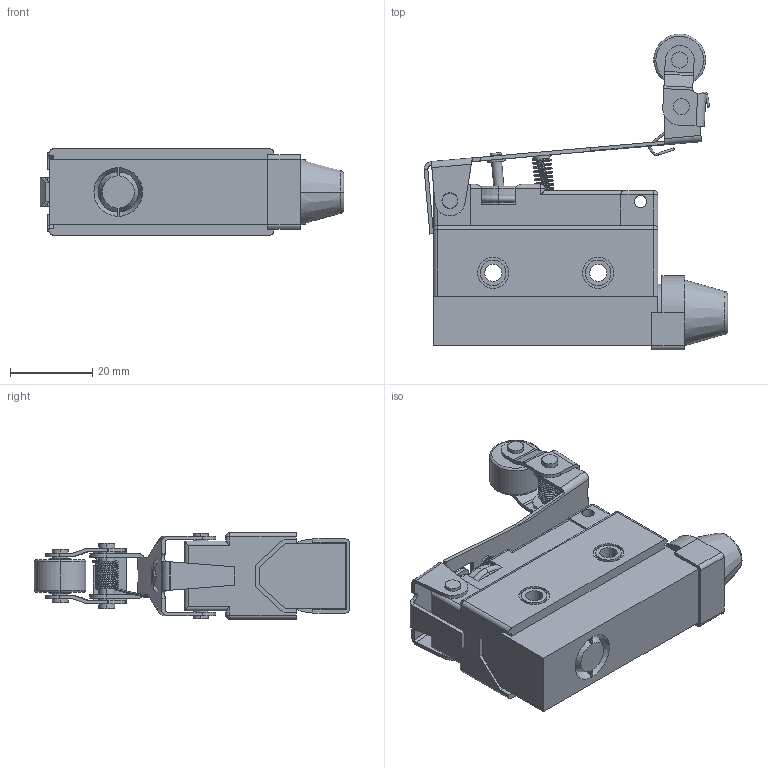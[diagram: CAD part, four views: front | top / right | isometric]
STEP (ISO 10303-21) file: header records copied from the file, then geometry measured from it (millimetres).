
FILE_DESCRIPTION (( 'STEP AP203' ), '1' );
FILE_NAME ('FM7124.STEP', '2018-03-23T13:18:24', ( '' ), ( '' ), 'SwSTEP 2.0', 'SolidWorks 2012', '' );
FILE_SCHEMA (( 'CONFIG_CONTROL_DESIGN' ));
Length unit declared in the file: millimetre
Products named in the file (1): FM7124
Bounding box: 73.76 x 76.71 x 21 mm (x, y, z)
Volume: 42886 mm3; surface area: 15327.9 mm2
Topology: 3 solids, 3 shells, 407 faces, 1011 edges, 636 vertices
Faces by surface type: plane 171, cylinder 166, torus 32, bspline 18, cone 12, sphere 8
Entity records: 22051 total; most frequent: CARTESIAN_POINT 12201, DIRECTION 2112, ORIENTED_EDGE 1998, EDGE_CURVE 999, AXIS2_PLACEMENT_3D 787, VERTEX_POINT 636, LINE 538, VECTOR 538
